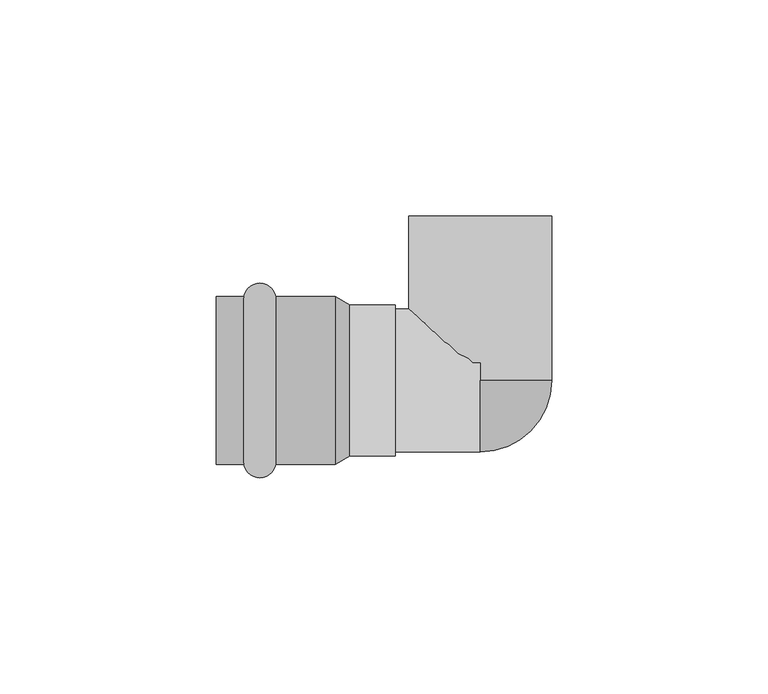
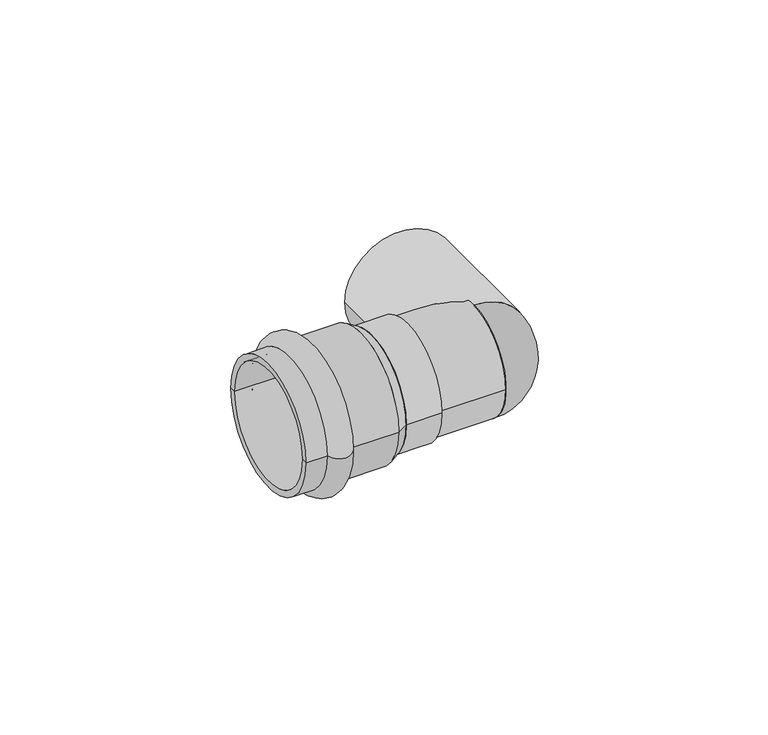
"""IFC4 building model written with IfcOpenShell, lengths in millimetres: pipe fitting geometry, VALTEC_VTi.952.I_Угольник с переходом на внутреннюю резьбу нержавеющая сталь : VTi.952.I."""

from ifc_helpers import new_model, si_unit, point, frame, origin, origin_2d, place, context, project, spatial, polyline, circle_curve, ellipse_curve, trimmed, segment, composite_curve, outline, extrude, source, transform, mapped, element, save
from ifc_brep_helpers import plane_surface, cylinder_surface, revolved_surface, advanced_brep


def pipe_fitting_d279f9ed(model_context):
    return source(origin(), model_context, "Body", "SolidModel", [
        advanced_brep(
        [(-54.6432371, -19.4, 0.0), (-54.6432371, 19.4, 0.0), (-47.2567629, 19.4, 0.0), (-47.2567629, -19.4, 0.0), (-61.0, -19.4, 0.0), (-61.0, 19.4, 0.0), (-61.0, -17.5, 0.0), (-61.0, 17.5, 0.0), (-33.55, -17.5, 0.0), (-33.55, 17.5, 0.0), (-33.55, -19.4, 0.0), (-33.55, 19.4, 0.0)],
        [
            (0, 1, circle_curve(frame((-54.6432371, 0.0, 0.0), z_axis=(1.0, 0.0, 0.0), x_axis=(0.0, 1.0, 0.0)), 19.4)),
            (1, 2, circle_curve(frame((-50.95, 18.75, 0.0), z_axis=(0.0, 0.0, -1.0), x_axis=(1.0, 0.0, 0.0)), 3.75)),
            (2, 3, circle_curve(frame((-47.2567629, 0.0, 0.0), z_axis=(-1.0, 0.0, 0.0), x_axis=(0.0, 1.0, 0.0)), 19.4)),
            (3, 0, circle_curve(frame((-50.95, -18.75, 0.0), z_axis=(0.0, 0.0, -1.0), x_axis=(1.0, 0.0, 0.0)), 3.75)),
            (1, 0, circle_curve(frame((-54.6432371, 0.0, 0.0), z_axis=(1.0, 0.0, 0.0), x_axis=(0.0, 1.0, 0.0)), 19.4)),
            (3, 2, circle_curve(frame((-47.2567629, 0.0, 0.0), z_axis=(-1.0, 0.0, 0.0), x_axis=(0.0, 1.0, 0.0)), 19.4)),
            (4, 5, circle_curve(frame((-61.0, 0.0, 0.0), z_axis=(1.0, 0.0, 0.0), x_axis=(0.0, 1.0, 0.0)), 19.4)),
            (5, 1),
            (0, 4),
            (5, 4, circle_curve(frame((-61.0, 0.0, 0.0), z_axis=(1.0, 0.0, 0.0), x_axis=(0.0, 1.0, 0.0)), 19.4)),
            (6, 7, circle_curve(frame((-61.0, 0.0, 0.0), z_axis=(1.0, 0.0, 0.0), x_axis=(0.0, 1.0, 0.0)), 17.5)),
            (7, 5),
            (4, 6),
            (7, 6, circle_curve(frame((-61.0, 0.0, 0.0), z_axis=(1.0, 0.0, 0.0), x_axis=(0.0, 1.0, 0.0)), 17.5)),
            (8, 9, circle_curve(frame((-33.55, 0.0, 0.0), z_axis=(1.0, 0.0, 0.0), x_axis=(0.0, 1.0, 0.0)), 17.5)),
            (9, 7),
            (6, 8),
            (9, 8, circle_curve(frame((-33.55, 0.0, 0.0), z_axis=(1.0, 0.0, 0.0), x_axis=(0.0, 1.0, 0.0)), 17.5)),
            (10, 11, circle_curve(frame((-33.55, 0.0, 0.0), z_axis=(1.0, 0.0, 0.0), x_axis=(0.0, 1.0, 0.0)), 19.4)),
            (11, 9),
            (8, 10),
            (11, 10, circle_curve(frame((-33.55, 0.0, 0.0), z_axis=(1.0, 0.0, 0.0), x_axis=(0.0, 1.0, 0.0)), 19.4)),
            (2, 11),
            (10, 3),
        ],
        [
            revolved_surface(trimmed(ellipse_curve(frame((-50.95, 18.75, 0.0), z_axis=(0.0, 0.0, 1.0), x_axis=(1.0, 0.0, 0.0)), 3.75, 3.75), [point((-47.2567629, 19.4, 0.0))], [point((-54.6432371, 19.4, 0.0))], True, "CARTESIAN"), (-64.5364426, 0.0, 0.0), (-1.0, 0.0, 0.0)),
            cylinder_surface(frame((-64.5364426, 0.0, 0.0), z_axis=(-1.0, 0.0, 0.0), x_axis=(0.0, 1.0, 0.0)), 19.4),
            plane_surface(frame((-61.0, 0.0, 0.0), z_axis=(-1.0, 0.0, 0.0), x_axis=(0.0, 1.0, 0.0))),
            revolved_surface(polyline([(-61.0, 17.5, 0.0), (-33.55, 17.5, 0.0)]), (-64.5364426, 0.0, 0.0), (-1.0, 0.0, 0.0)),
            plane_surface(frame((-33.55, 0.0, 0.0), z_axis=(1.0, 0.0, 0.0), x_axis=(0.0, 1.0, 0.0))),
        ],
        [
            (0, [[1, 2, 3, 4]]),
            (0, [[5, -4, 6, -2]]),
            (1, [[7, 8, -1, 9]]),
            (1, [[10, -9, -5, -8]]),
            (2, [[11, 12, -7, 13]]),
            (2, [[14, -13, -10, -12]]),
            (3, [[15, 16, -11, 17]]),
            (3, [[18, -17, -14, -16]]),
            (4, [[19, 20, -15, 21]]),
            (4, [[22, -21, -18, -20]]),
            (1, [[-3, 23, -19, 24]]),
            (1, [[-6, -24, -22, -23]]),
        ],
    ),
        advanced_brep(
        [(0.0, 0.0, -16.5), (0.0, 0.0, 16.5)],
        [
            (0, 1, circle_curve(frame((0.0, 0.0, 0.0), z_axis=(-1.0, 0.0, 0.0), x_axis=(0.0, -1.0, 0.0)), 16.5)),
            (1, 0),
            (1, 0, circle_curve(frame((0.0, 0.0, 0.0), z_axis=(0.0, 1.0, 0.0), x_axis=(1.0, 0.0, 0.0)), 16.5)),
        ],
        [
            plane_surface(frame((0.0, 0.0, 1.732782), z_axis=(-1.0, 0.0, 0.0), x_axis=(0.0, -1.0, 0.0))),
            plane_surface(frame((0.0, 0.0, 1.732782), z_axis=(0.0, 1.0, 0.0), x_axis=(1.0, 0.0, 0.0))),
            revolved_surface(trimmed(ellipse_curve(frame((0.0, 0.0, 0.0), z_axis=(-1.0, 0.0, 0.0), x_axis=(0.0, -1.0, 0.0)), 16.5, 16.5), [point((0.0, 0.0, -16.5))], [point((0.0, 0.0, 16.5))], True, "CARTESIAN"), (0.0, 0.0, 1.732782), (0.0, 0.0, 1.0)),
        ],
        [
            (0, [[1, 2]]),
            (1, [[3, -2]]),
            (2, [[-1, -3]]),
        ],
    ),
        extrude(outline(composite_curve([segment(trimmed(circle_curve(origin_2d(), 16.5), [point((-16.5, 0.0))], [point((16.5, 0.0))], False, "CARTESIAN"), True, "CONTINUOUS"), segment(trimmed(circle_curve(origin_2d(), 16.5), [point((16.5, 0.0))], [point((-16.5, 0.0))], False, "CARTESIAN"), True, "CONTINUOUS")], self_intersect=False)), frame((-19.6390217, 0.0, 0.0), z_axis=(1.0, 0.0, 0.0), x_axis=(0.0, 1.0, 0.0)), (0.0, 0.0, 1.0), 19.6390217),
        extrude(outline(composite_curve([segment(trimmed(circle_curve(origin_2d(), 16.5), [point((0.0, -16.5))], [point((0.0, 16.5))], False, "CARTESIAN"), True, "CONTINUOUS"), segment(trimmed(circle_curve(origin_2d(), 16.5), [point((0.0, 16.5))], [point((0.0, -16.5))], False, "CARTESIAN"), True, "CONTINUOUS")], self_intersect=False), holes=[composite_curve([segment(trimmed(circle_curve(origin_2d(), 12.5), [point((0.0, -12.5))], [point((0.0, 12.5))], True, "CARTESIAN"), True, "CONTINUOUS"), segment(trimmed(circle_curve(origin_2d(), 12.5), [point((0.0, 12.5))], [point((0.0, -12.5))], True, "CARTESIAN"), True, "CONTINUOUS")], self_intersect=False)]), frame((0.0, 0.0, 0.0), z_axis=(0.0, 1.0, 0.0), x_axis=(0.0, 0.0, 1.0)), (0.0, 0.0, 1.0), 38.0),
        extrude(outline(composite_curve([segment(trimmed(circle_curve(origin_2d(), 17.5), [point((-17.5, 0.0))], [point((17.5, 0.0))], False, "CARTESIAN"), True, "CONTINUOUS"), segment(trimmed(circle_curve(origin_2d(), 17.5), [point((17.5, 0.0))], [point((-17.5, 0.0))], False, "CARTESIAN"), True, "CONTINUOUS")], self_intersect=False)), frame((-30.195, 0.0, 0.0), z_axis=(1.0, 0.0, 0.0), x_axis=(0.0, 1.0, 0.0)), (0.0, 0.0, 1.0), 10.5559783),
        advanced_brep(
        [(-33.55, -19.4, 0.0), (-33.55, 19.4, 0.0), (-30.195, -17.5, 0.0), (-30.195, 17.5, 0.0)],
        [
            (0, 1, circle_curve(frame((-33.55, 0.0, 0.0), z_axis=(-1.0, 0.0, 0.0), x_axis=(0.0, -1.0, 0.0)), 19.4)),
            (1, 0, circle_curve(frame((-33.55, 0.0, 0.0), z_axis=(-1.0, 0.0, 0.0), x_axis=(0.0, 1.0, 0.0)), 19.4)),
            (2, 3, circle_curve(frame((-30.195, 0.0, 0.0), z_axis=(1.0, 0.0, 0.0), x_axis=(0.0, 1.0, 0.0)), 17.5)),
            (3, 2, circle_curve(frame((-30.195, 0.0, 0.0), z_axis=(1.0, 0.0, 0.0), x_axis=(0.0, -1.0, 0.0)), 17.5)),
            (2, 0),
            (1, 3),
        ],
        [
            plane_surface(frame((-33.55, 0.0, 0.0), z_axis=(-1.0, 0.0, 0.0), x_axis=(0.0, 0.0, -1.0))),
            plane_surface(frame((-30.195, 0.0, 0.0), z_axis=(1.0, 0.0, 0.0), x_axis=(0.0, 0.0, -1.0))),
            revolved_surface(polyline([(-30.195, -17.500000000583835, 0.0), (-33.55, -19.4, 0.0)]), (0.7063158, 0.0, 0.0), (-1.0, 0.0, 0.0)),
            revolved_surface(polyline([(-30.195, 17.500000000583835, 0.0), (-33.55, 19.4, 0.0)]), (0.7063158, 0.0, 0.0), (-1.0, 0.0, 0.0)),
        ],
        [
            (0, [[1, 2]]),
            (1, [[3, 4]]),
            (2, [[-3, 5, -2, 6]]),
            (3, [[-4, -6, -1, -5]]),
        ],
    ),
    ])


if __name__ == "__main__":
    model = new_model("IFC4")
    model_context = context("Model", 3, world=origin())
    ifc_project = project(units=[si_unit("LENGTHUNIT", "METRE", prefix="MILLI")], contexts=[model_context])
    site = spatial("IfcSite", under=ifc_project)
    building = spatial("IfcBuilding", under=site)
    placement = place(None, origin())
    pipe_fitting_shape = pipe_fitting_d279f9ed(model_context)
    element("IfcPipeFitting", 1, ObjectType="VALTEC_VTi.952.I_Угольник с переходом на внутреннюю резьбу нержавеющая сталь : VTi.952.I", at=placement, inside=building, context=model_context, shape_type="MappedRepresentation", body=[
        mapped(pipe_fitting_shape, transform((0.0, 0.0, 0.0), x_axis=(1.0, 0.0, 0.0), y_axis=(0.0, 1.0, 0.0), z_axis=(0.0, 0.0, 1.0))),
    ])
    save(model, "model.ifc")
